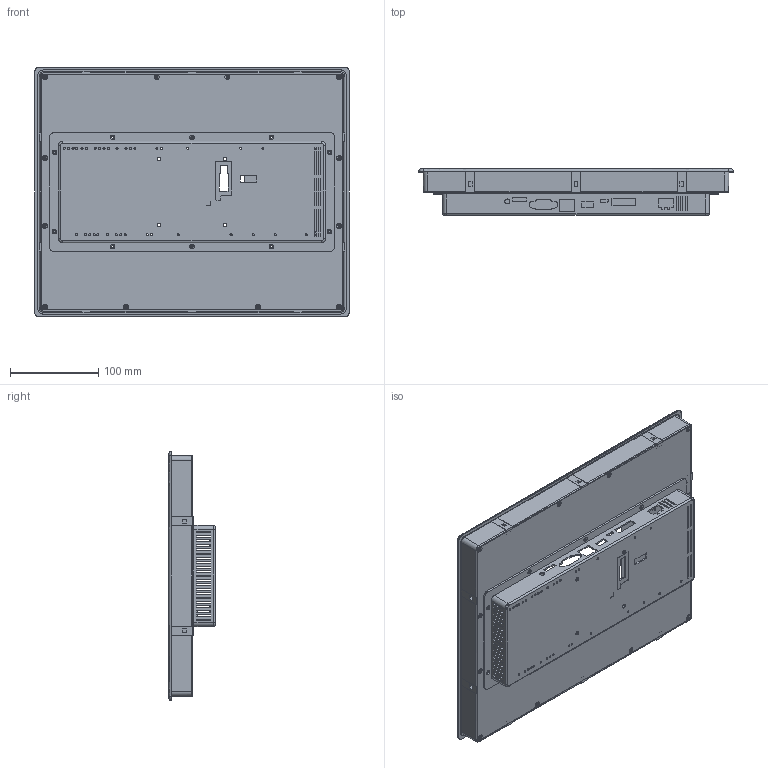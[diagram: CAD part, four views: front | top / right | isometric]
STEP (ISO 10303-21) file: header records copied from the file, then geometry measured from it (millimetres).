
FILE_DESCRIPTION(/* description */ (''),/* implementation_level */ '2;1');
FILE_NAME(/* name */ 'P5150NH',/* time_stamp */ '2021-02-09T10:06:03+08:00',/* author */ (''),/* organization */ (''),/* preprocessor_version */ 'ST-DEVELOPER v16.5',/* originating_system */ '',/* authorisation */ '');
FILE_SCHEMA (('CONFIG_CONTROL_DESIGN'));
Length unit declared in the file: millimetre
Products named in the file (1): Document
Bounding box: 357 x 52.83 x 283 mm (x, y, z)
Surface area: 407744.8 mm2 (no closed solid volume)
Topology: 0 solids, 1158 shells, 1158 faces, 6238 edges, 6234 vertices
Faces by surface type: plane 626, cylinder 385, bspline 147
Entity records: 59829 total; most frequent: CARTESIAN_POINT 27098, ORIENTED_EDGE 6234, EDGE_CURVE 6234, VERTEX_POINT 6234, B_SPLINE_CURVE_WITH_KNOTS 4418, EDGE_LOOP 1507, SHELL_BASED_SURFACE_MODEL 1158, OPEN_SHELL 1158
